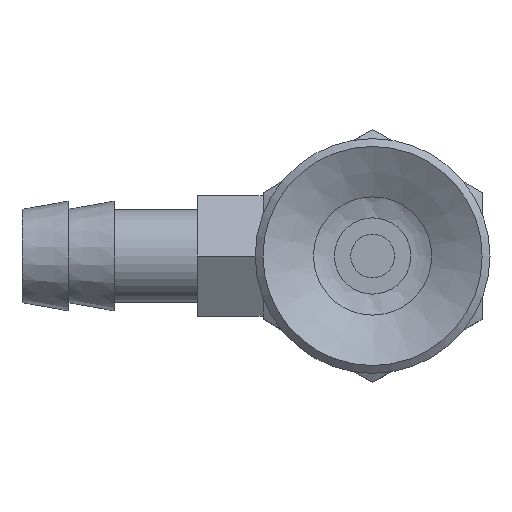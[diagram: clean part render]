
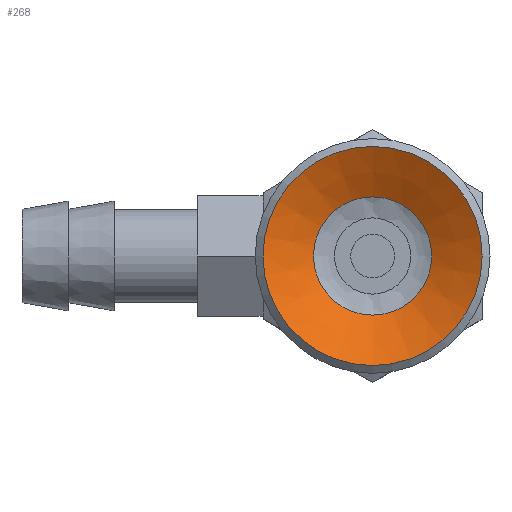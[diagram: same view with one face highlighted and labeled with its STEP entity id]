
A CAD part, front view. The second image highlights one B-rep face of the part: STEP entity #268.
In plain terms, the highlighted conical face has half-angle 61.39 degrees and reference radius 2.25 mm.
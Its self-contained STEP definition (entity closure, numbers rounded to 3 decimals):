
#268=ADVANCED_FACE('',(#430,#431),#432,.F.);
#430=FACE_BOUND('',#621,.T.);
#431=FACE_OUTER_BOUND('',#622,.T.);
#432=CONICAL_SURFACE('',#623,2.25,1.071);
#621=EDGE_LOOP('',(#1062));
#622=EDGE_LOOP('',(#1063));
#623=AXIS2_PLACEMENT_3D('',#1064,#1065,#1066);
#1062=ORIENTED_EDGE('',*,*,#1233,.T.);
#1063=ORIENTED_EDGE('',*,*,#1234,.T.);
#1064=CARTESIAN_POINT('',(0.0,1.5,0.0));
#1065=DIRECTION('',(-0.0,-1.0,0.));
#1066=DIRECTION('',(0.0,0.,-1.0));
#1233=EDGE_CURVE('',#1414,#1414,#1415,.T.);
#1234=EDGE_CURVE('',#1416,#1416,#1417,.T.);
#1414=VERTEX_POINT('',#1904);
#1415=CIRCLE('',#1905,2.698);
#1416=VERTEX_POINT('',#1906);
#1417=CIRCLE('',#1907,5.);
#1904=CARTESIAN_POINT('',(0.0,1.256,-2.698));
#1905=AXIS2_PLACEMENT_3D('',#2089,#2090,#2091);
#1906=CARTESIAN_POINT('',(0.0,0.,-5.));
#1907=AXIS2_PLACEMENT_3D('',#2092,#2093,#2094);
#2089=CARTESIAN_POINT('',(0.0,1.256,0.0));
#2090=DIRECTION('',(0.0,1.0,0.));
#2091=DIRECTION('',(0.0,0.,-1.0));
#2092=CARTESIAN_POINT('',(0.0,0.0,0.0));
#2093=DIRECTION('',(0.0,-1.0,0.));
#2094=DIRECTION('',(0.0,0.,-1.0));
